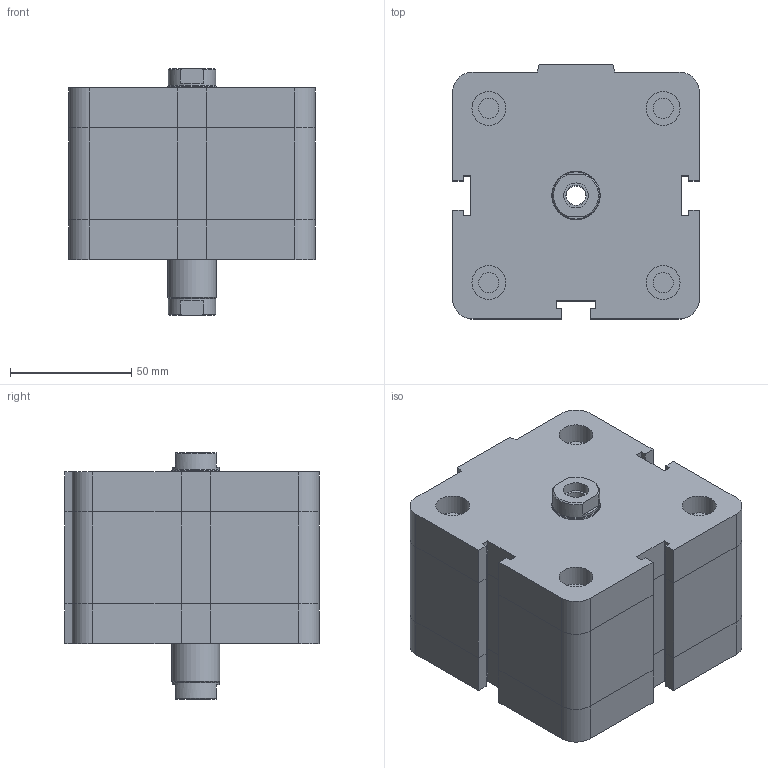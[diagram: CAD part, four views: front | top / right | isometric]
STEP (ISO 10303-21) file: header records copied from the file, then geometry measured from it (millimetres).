
FILE_DESCRIPTION((''),'2;1');
FILE_NAME('I:\Area Tecnica\Disegni\VARIE-3D\Componenti\EUROPE\15##_###_####_06_#\1561_80_0015_06_1.iam.stp','2009-04-20T15:06:42',(''),(''),'Autodesk Inventor 2009','Autodesk Inventor 2009','');
FILE_SCHEMA(('AUTOMOTIVE_DESIGN { 1 0 10303 214 1 1 1 1 }'));
Length unit declared in the file: millimetre
Products named in the file (3): 1561_80_0015_06_1; 1561_80_0015_03_1_C; 1561_80_0015_06_1_S
Assembly tree (2 placements, depth 2):
  1561_80_0015_06_1
    1561_80_0015_03_1_C
    1561_80_0015_06_1_S
Bounding box: 102 x 105 x 102 mm (x, y, z)
Volume: 704878.4 mm3; surface area: 73412.6 mm2
Topology: 2 solids, 2 shells, 175 faces, 382 edges, 233 vertices
Faces by surface type: plane 114, bspline 30, cylinder 25, cone 6
Full cylindrical faces by diameter (mm): 8.376 x5, 10.3 x1, 14 x4, 19.5 x2, 20 x1
Entity records: 4805 total; most frequent: CARTESIAN_POINT 1042, DIRECTION 712, ORIENTED_EDGE 680, EDGE_CURVE 340, VECTOR 252, LINE 252, AXIS2_PLACEMENT_3D 230, EDGE_LOOP 230
